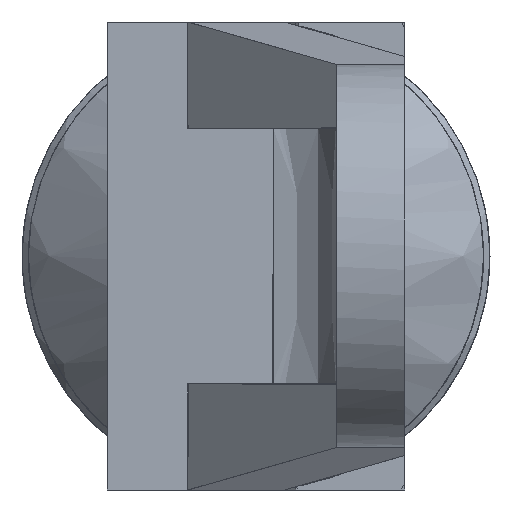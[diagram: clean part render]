
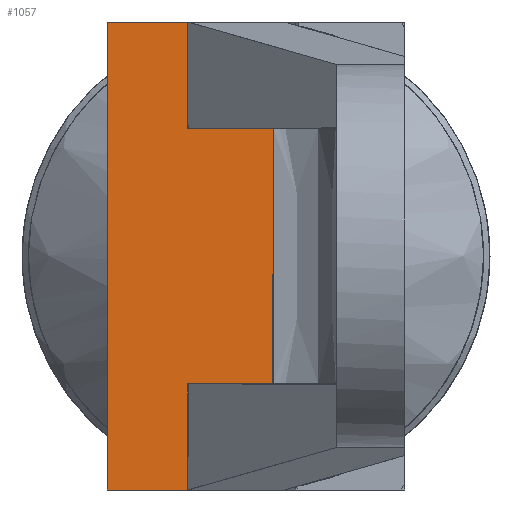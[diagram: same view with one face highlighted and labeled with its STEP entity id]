
A CAD part, front view. The second image highlights one B-rep face of the part: STEP entity #1057.
In plain terms, the highlighted planar face has unit normal (0, -1, 0).
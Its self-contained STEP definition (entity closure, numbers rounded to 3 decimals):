
#56=PLANE('',#3292);
#1057=ADVANCED_FACE('',(#1142),#56,.T.);
#1142=FACE_OUTER_BOUND('',#1231,.T.);
#1231=EDGE_LOOP('',(#1398));
#1398=ORIENTED_EDGE('',*,*,#2660,.T.);
#1636=PCURVE('',#56,#1874);
#1874=DEFINITIONAL_REPRESENTATION('',(#2155),#6876);
#2154=B_SPLINE_CURVE_WITH_KNOTS('',1,(#5049,#5050,#5051,#5052,#5053,#5054,
#5055,#5056,#5057),.UNSPECIFIED.,.T.,.F.,(2,1,1,1,1,1,1,1,2),(-8.,-7.,-6.,
-5.,-4.,-3.,-2.,-1.,0.),.UNSPECIFIED.);
#2155=B_SPLINE_CURVE_WITH_KNOTS('',1,(#5058,#5059,#5060,#5061,#5062,#5063,
#5064,#5065,#5066),.UNSPECIFIED.,.T.,.F.,(2,1,1,1,1,1,1,1,2),(-8.,-7.,-6.,
-5.,-4.,-3.,-2.,-1.,0.),.UNSPECIFIED.);
#2422=SURFACE_CURVE('',#2154,(#1636),.PCURVE_S1.);
#2660=EDGE_CURVE('',#3064,#3064,#2422,.T.);
#3064=VERTEX_POINT('',#5048);
#3292=AXIS2_PLACEMENT_3D('',#5047,#3349,$);
#3349=DIRECTION('',(0.,-1.,0.));
#5047=CARTESIAN_POINT('',(0.,-375.2,11.));
#5048=CARTESIAN_POINT('',(3.8,-375.2,6.));
#5049=CARTESIAN_POINT('',(3.8,-375.2,6.));
#5050=CARTESIAN_POINT('',(3.8,-375.2,11.));
#5051=CARTESIAN_POINT('',(0.,-375.2,11.));
#5052=CARTESIAN_POINT('',(0.,-375.2,-11.));
#5053=CARTESIAN_POINT('',(3.8,-375.2,-11.));
#5054=CARTESIAN_POINT('',(3.8,-375.2,-6.));
#5055=CARTESIAN_POINT('',(7.8,-375.2,-6.));
#5056=CARTESIAN_POINT('',(7.8,-375.2,6.));
#5057=CARTESIAN_POINT('',(3.8,-375.2,6.));
#5058=CARTESIAN_POINT('',(0.227,0.487));
#5059=CARTESIAN_POINT('',(0.,0.487));
#5060=CARTESIAN_POINT('',(0.,0.));
#5061=CARTESIAN_POINT('',(1.,0.));
#5062=CARTESIAN_POINT('',(1.,0.487));
#5063=CARTESIAN_POINT('',(0.773,0.487));
#5064=CARTESIAN_POINT('',(0.773,1.));
#5065=CARTESIAN_POINT('',(0.227,1.));
#5066=CARTESIAN_POINT('',(0.227,0.487));
#6876=(
GEOMETRIC_REPRESENTATION_CONTEXT(2)
PARAMETRIC_REPRESENTATION_CONTEXT()
REPRESENTATION_CONTEXT('pspace','')
);
